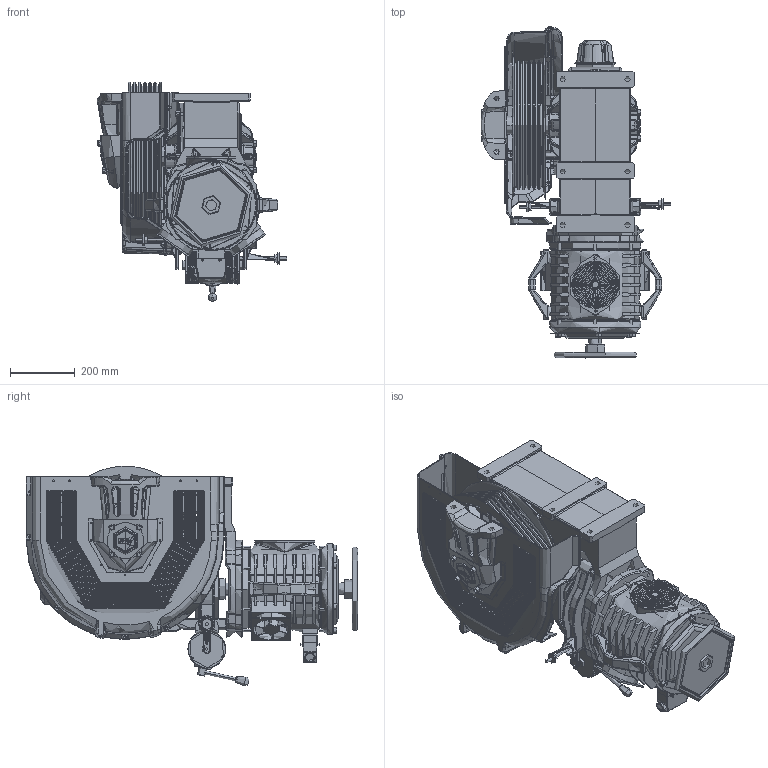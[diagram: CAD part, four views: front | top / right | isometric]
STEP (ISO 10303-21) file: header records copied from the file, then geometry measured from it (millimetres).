
FILE_DESCRIPTION (( 'STEP AP214' ), '1' );
FILE_NAME ('ST9004021.STEP', '2026-01-19T14:51:25', ( '' ), ( '' ), 'SwSTEP 2.0', 'SolidWorks 2023', '' );
FILE_SCHEMA (( 'AUTOMOTIVE_DESIGN' ));
Length unit declared in the file: millimetre
Products named in the file (3): ST9004021; 460x6x10 kasnak; STRONG 9 KW
Assembly tree (2 placements, depth 2):
  ST9004021
    STRONG 9 KW
    460x6x10 kasnak
Bounding box: 586.99 x 1025.13 x 679.18 mm (x, y, z)
Topology: 77 solids, 85 shells, 8407 faces, 20822 edges, 12477 vertices
Faces by surface type: plane 2524, cylinder 2390, bspline 1793, torus 819, cone 597, sphere 284
Full cylindrical faces by diameter (mm): 20 x3
Entity records: 326790 total; most frequent: CARTESIAN_POINT 139480, ORIENTED_EDGE 41354, DIRECTION 36522, EDGE_CURVE 20677, AXIS2_PLACEMENT_3D 14654, VERTEX_POINT 12443, EDGE_LOOP 9158, ADVANCED_FACE 8405
